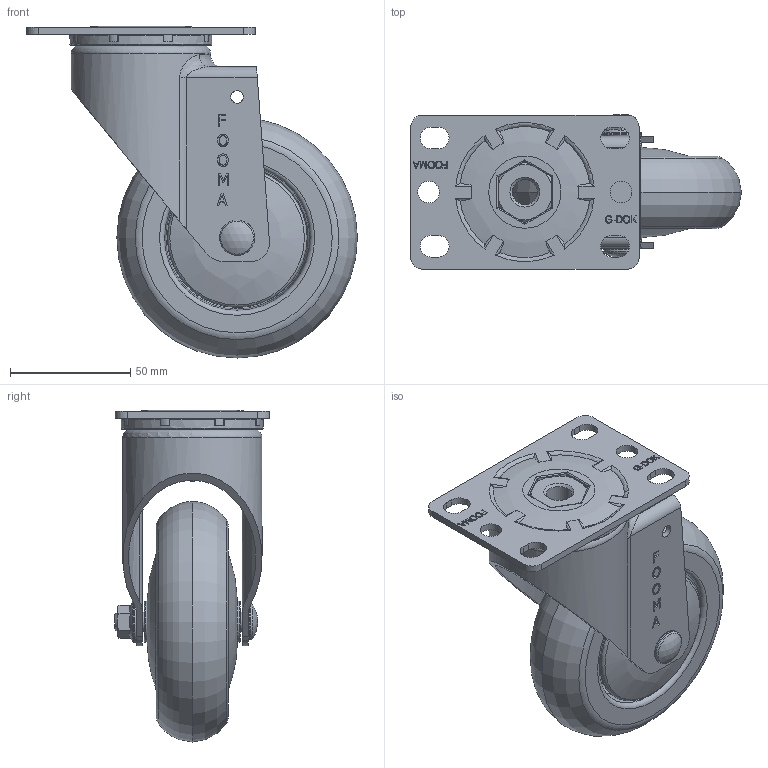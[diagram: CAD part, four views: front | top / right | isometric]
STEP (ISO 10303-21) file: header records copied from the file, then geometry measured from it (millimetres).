
FILE_DESCRIPTION(/* description */ (''),/* implementation_level */ '2;1');
FILE_NAME(/* name */ 'E:\홈피용도면\\X2\C2E0ADDCD648D398C774C9C0C6A9B3C4BA74\X0\\무소음캐스터\20160225-\X2\BB34C18CC74CCE90C2A4D130\X0\\PL-100-ASF.stp',/* time_stamp */ '2016-02-25T22:21:29+09:00',/* author */ ('장용하'),/* organization */ (''),/* preprocessor_version */ 'ST-DEVELOPER v15.6',/* originating_system */ 'Autodesk Inventor 2015',/* authorisation */ '');
FILE_SCHEMA (('AUTOMOTIVE_DESIGN { 1 0 10303 214 3 1 1 }'));
Length unit declared in the file: millimetre
Products named in the file (1): PL-100-ASF
Bounding box: 137.5 x 64.25 x 138 mm (x, y, z)
Volume: 259601.5 mm3; surface area: 90856.8 mm2
Topology: 1 solids, 1 shells, 1350 faces, 3712 edges, 2424 vertices
Faces by surface type: plane 924, cylinder 203, bspline 86, torus 85, cone 51, sphere 1
Full cylindrical faces by diameter (mm): 5.2 x2, 8 x2, 9 x2, 10.441 x1, 12.5 x1, 14.6 x1, 17 x1, 22 x2, 24.667 x2, 25 x1, 32.333 x2, 34 x1, 36 x1, 41 x1, 53 x1, 55 x1, 58 x1, 59 x1
Entity records: 46307 total; most frequent: CARTESIAN_POINT 12886, ORIENTED_EDGE 7144, DIRECTION 6373, EDGE_CURVE 3572, LINE 2647, VECTOR 2647, VERTEX_POINT 2405, AXIS2_PLACEMENT_3D 1863
